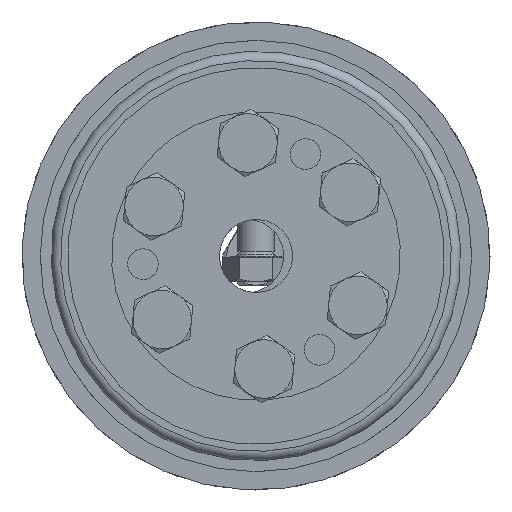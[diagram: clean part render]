
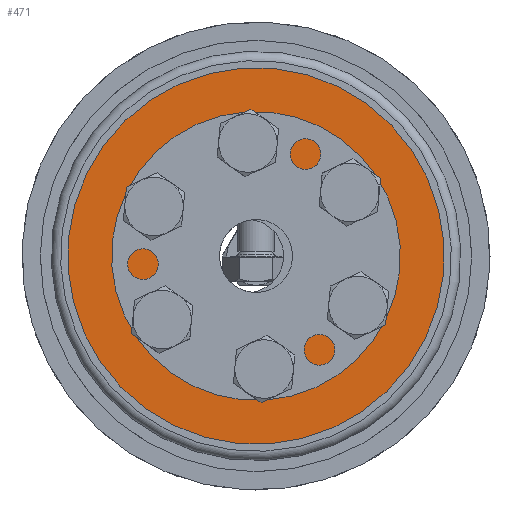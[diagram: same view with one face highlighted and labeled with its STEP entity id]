
A CAD part, left-side view. The second image highlights one B-rep face of the part: STEP entity #471.
In plain terms, the highlighted planar face has unit normal (-1, 0, 0).
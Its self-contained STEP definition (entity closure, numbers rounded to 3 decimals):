
#471 = ADVANCED_FACE( 'NONE', ( #802, #803, #804, #805, #806, #807, #808, #809 ), #810, .F. );
#802 = FACE_OUTER_BOUND( '', #1393, .T. );
#803 = FACE_BOUND( '', #1394, .T. );
#804 = FACE_BOUND( '', #1395, .T. );
#805 = FACE_BOUND( '', #1396, .T. );
#806 = FACE_BOUND( '', #1397, .T. );
#807 = FACE_BOUND( '', #1398, .T. );
#808 = FACE_BOUND( '', #1399, .T. );
#809 = FACE_BOUND( '', #1400, .T. );
#810 = PLANE( '', #1401 );
#1393 = EDGE_LOOP( '', ( #2115 ) );
#1394 = EDGE_LOOP( '', ( #2116 ) );
#1395 = EDGE_LOOP( '', ( #2117 ) );
#1396 = EDGE_LOOP( '', ( #2118 ) );
#1397 = EDGE_LOOP( '', ( #2119 ) );
#1398 = EDGE_LOOP( '', ( #2120 ) );
#1399 = EDGE_LOOP( '', ( #2121 ) );
#1400 = EDGE_LOOP( '', ( #2122 ) );
#1401 = AXIS2_PLACEMENT_3D( '', #2123, #2124, #2125 );
#2115 = ORIENTED_EDGE( '', *, *, #3429, .T. );
#2116 = ORIENTED_EDGE( '', *, *, #3430, .F. );
#2117 = ORIENTED_EDGE( '', *, *, #3419, .F. );
#2118 = ORIENTED_EDGE( '', *, *, #3431, .F. );
#2119 = ORIENTED_EDGE( '', *, *, #3432, .F. );
#2120 = ORIENTED_EDGE( '', *, *, #3433, .F. );
#2121 = ORIENTED_EDGE( '', *, *, #3434, .F. );
#2122 = ORIENTED_EDGE( '', *, *, #3435, .F. );
#2123 = CARTESIAN_POINT( '', ( 0., 12.2, 0. ) );
#2124 = DIRECTION( '', ( 1., 0., 0. ) );
#2125 = DIRECTION( '', ( 0., 1., 0. ) );
#3419 = EDGE_CURVE( 'NONE', #3768, #3768, #3769, .T. );
#3429 = EDGE_CURVE( 'NONE', #3788, #3788, #3789, .T. );
#3430 = EDGE_CURVE( 'NONE', #3790, #3790, #3791, .T. );
#3431 = EDGE_CURVE( 'NONE', #3792, #3792, #3793, .T. );
#3432 = EDGE_CURVE( 'NONE', #3794, #3794, #3795, .T. );
#3433 = EDGE_CURVE( 'NONE', #3796, #3796, #3797, .T. );
#3434 = EDGE_CURVE( 'NONE', #3798, #3798, #3799, .T. );
#3435 = EDGE_CURVE( 'NONE', #3800, #3800, #3801, .T. );
#3768 = VERTEX_POINT( '', #4342 );
#3769 = CIRCLE( '', #4343, 2.1 );
#3788 = VERTEX_POINT( '', #4362 );
#3789 = CIRCLE( '', #4363, 25.75 );
#3790 = VERTEX_POINT( '', #4364 );
#3791 = CIRCLE( '', #4365, 2.1 );
#3792 = VERTEX_POINT( '', #4366 );
#3793 = CIRCLE( '', #4367, 2.1 );
#3794 = VERTEX_POINT( '', #4368 );
#3795 = CIRCLE( '', #4369, 2.1 );
#3796 = VERTEX_POINT( '', #4370 );
#3797 = CIRCLE( '', #4371, 12.2 );
#3798 = VERTEX_POINT( '', #4372 );
#3799 = CIRCLE( '', #4373, 2.1 );
#3800 = VERTEX_POINT( '', #4374 );
#3801 = CIRCLE( '', #4375, 2.1 );
#4342 = CARTESIAN_POINT( '', ( 0., -7.75, -11.323 ) );
#4343 = AXIS2_PLACEMENT_3D( '', #4999, #5000, #5001 );
#4362 = CARTESIAN_POINT( '', ( 0., 0., 25.75 ) );
#4363 = AXIS2_PLACEMENT_3D( '', #5029, #5030, #5031 );
#4364 = CARTESIAN_POINT( '', ( 0., -7.75, 15.523 ) );
#4365 = AXIS2_PLACEMENT_3D( '', #5032, #5033, #5034 );
#4366 = CARTESIAN_POINT( '', ( 0., 7.75, -11.323 ) );
#4367 = AXIS2_PLACEMENT_3D( '', #5035, #5036, #5037 );
#4368 = CARTESIAN_POINT( '', ( 0., 15.5, 2.1 ) );
#4369 = AXIS2_PLACEMENT_3D( '', #5038, #5039, #5040 );
#4370 = CARTESIAN_POINT( '', ( 0., 0., 12.2 ) );
#4371 = AXIS2_PLACEMENT_3D( '', #5041, #5042, #5043 );
#4372 = CARTESIAN_POINT( '', ( 0., -15.5, 2.1 ) );
#4373 = AXIS2_PLACEMENT_3D( '', #5044, #5045, #5046 );
#4374 = CARTESIAN_POINT( '', ( 0., 7.75, 15.523 ) );
#4375 = AXIS2_PLACEMENT_3D( '', #5047, #5048, #5049 );
#4999 = CARTESIAN_POINT( '', ( 0., -7.75, -13.423 ) );
#5000 = DIRECTION( '', ( -1., 0., 0. ) );
#5001 = DIRECTION( '', ( 0., 0., 1. ) );
#5029 = CARTESIAN_POINT( '', ( 0., 0., 0. ) );
#5030 = DIRECTION( '', ( -1., 0., 0. ) );
#5031 = DIRECTION( '', ( 0., 0., 1. ) );
#5032 = CARTESIAN_POINT( '', ( 0., -7.75, 13.423 ) );
#5033 = DIRECTION( '', ( -1., 0., 0. ) );
#5034 = DIRECTION( '', ( 0., 0., 1. ) );
#5035 = CARTESIAN_POINT( '', ( 0., 7.75, -13.423 ) );
#5036 = DIRECTION( '', ( -1., 0., 0. ) );
#5037 = DIRECTION( '', ( 0., 0., 1. ) );
#5038 = CARTESIAN_POINT( '', ( 0., 15.5, 0. ) );
#5039 = DIRECTION( '', ( -1., 0., 0. ) );
#5040 = DIRECTION( '', ( 0., 0., 1. ) );
#5041 = CARTESIAN_POINT( '', ( 0., 0., 0. ) );
#5042 = DIRECTION( '', ( -1., 0., 0. ) );
#5043 = DIRECTION( '', ( 0., 0., 1. ) );
#5044 = CARTESIAN_POINT( '', ( 0., -15.5, 0. ) );
#5045 = DIRECTION( '', ( -1., 0., 0. ) );
#5046 = DIRECTION( '', ( 0., 0., 1. ) );
#5047 = CARTESIAN_POINT( '', ( 0., 7.75, 13.423 ) );
#5048 = DIRECTION( '', ( -1., 0., 0. ) );
#5049 = DIRECTION( '', ( 0., 0., 1. ) );
